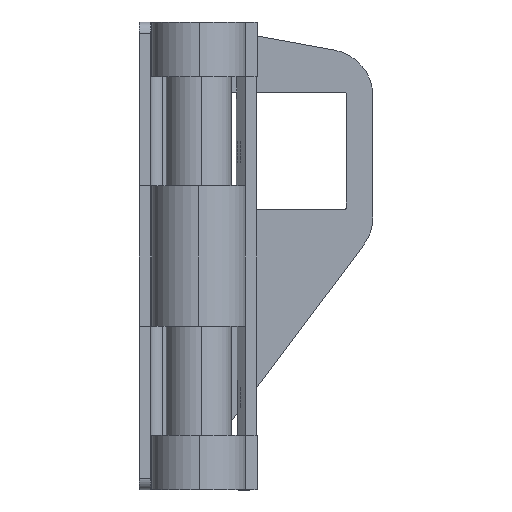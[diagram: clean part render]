
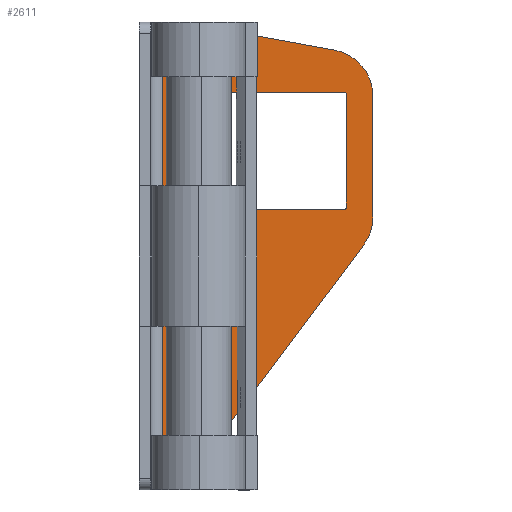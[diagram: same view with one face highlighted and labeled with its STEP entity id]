
A CAD part, left-side view. The second image highlights one B-rep face of the part: STEP entity #2611.
In plain terms, the highlighted planar face has unit normal (-1, 0, 0).
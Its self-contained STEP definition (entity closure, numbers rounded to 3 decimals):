
#19 = CARTESIAN_POINT ( 'NONE',  ( 305., -63., 69.5 ) ) ;
#43 = EDGE_CURVE ( 'NONE', #1361, #2282, #2624, .T. ) ;
#84 = LINE ( 'NONE', #19, #1025 ) ;
#113 = CARTESIAN_POINT ( 'NONE',  ( 305., -70.5, 4.667 ) ) ;
#115 = LINE ( 'NONE', #770, #2777 ) ;
#150 = EDGE_CURVE ( 'NONE', #3568, #1786, #716, .T. ) ;
#155 = ORIENTED_EDGE ( 'NONE', *, *, #3084, .F. ) ;
#240 = CARTESIAN_POINT ( 'NONE',  ( 305., -63., 20.5 ) ) ;
#253 = ORIENTED_EDGE ( 'NONE', *, *, #1641, .F. ) ;
#274 = CIRCLE ( 'NONE', #1566, 0.5 ) ;
#302 = EDGE_LOOP ( 'NONE', ( #1205, #2645, #155, #1984, #2272, #2967, #1259, #1002 ) ) ;
#323 = DIRECTION ( 'NONE',  ( 0., 1., 0. ) ) ;
#324 = DIRECTION ( 'NONE',  ( -1., 0., 0. ) ) ;
#326 = CARTESIAN_POINT ( 'NONE',  ( 305., -62.5, 69.5 ) ) ;
#328 = VERTEX_POINT ( 'NONE', #2846 ) ;
#337 = ORIENTED_EDGE ( 'NONE', *, *, #4019, .T. ) ;
#396 = LINE ( 'NONE', #899, #3893 ) ;
#456 = DIRECTION ( 'NONE',  ( 0., 1., 0. ) ) ;
#457 = DIRECTION ( 'NONE',  ( -1., 0., 0. ) ) ;
#463 = CARTESIAN_POINT ( 'NONE',  ( 305., 11.5, 20.5 ) ) ;
#513 = EDGE_CURVE ( 'NONE', #2811, #1565, #2601, .T. ) ;
#540 = AXIS2_PLACEMENT_3D ( 'NONE', #3517, #3516, #3514 ) ;
#606 = CARTESIAN_POINT ( 'NONE',  ( 305., 20.5, 100. ) ) ;
#664 = LINE ( 'NONE', #606, #4042 ) ;
#683 = CARTESIAN_POINT ( 'NONE',  ( 305., 8., -100. ) ) ;
#700 = EDGE_CURVE ( 'NONE', #1565, #1891, #2973, .T. ) ;
#716 = CIRCLE ( 'NONE', #2866, 0.5 ) ;
#741 = VECTOR ( 'NONE', #977, 1000. ) ;
#770 = CARTESIAN_POINT ( 'NONE',  ( 305., 15.5, 100. ) ) ;
#776 = DIRECTION ( 'NONE',  ( 0., 0., -1. ) ) ;
#873 = VERTEX_POINT ( 'NONE', #1790 ) ;
#899 = CARTESIAN_POINT ( 'NONE',  ( 305., 8., 100. ) ) ;
#925 = CARTESIAN_POINT ( 'NONE',  ( 305., 11.5, 70. ) ) ;
#930 = CARTESIAN_POINT ( 'NONE',  ( 305., 12., 20.5 ) ) ;
#937 = VERTEX_POINT ( 'NONE', #1701 ) ;
#953 = CARTESIAN_POINT ( 'NONE',  ( 305., 8., 100. ) ) ;
#968 = DIRECTION ( 'NONE',  ( 0., 0.984, 0.179 ) ) ;
#973 = CARTESIAN_POINT ( 'NONE',  ( 305., 11.5, 20. ) ) ;
#977 = DIRECTION ( 'NONE',  ( 0., 1., 0. ) ) ;
#1002 = ORIENTED_EDGE ( 'NONE', *, *, #700, .T. ) ;
#1025 = VECTOR ( 'NONE', #1349, 1000. ) ;
#1075 = CARTESIAN_POINT ( 'NONE',  ( 305., -74.5, 16.667 ) ) ;
#1146 = VECTOR ( 'NONE', #2141, 1000. ) ;
#1205 = ORIENTED_EDGE ( 'NONE', *, *, #3772, .F. ) ;
#1223 = CARTESIAN_POINT ( 'NONE',  ( 305., -63., 69.5 ) ) ;
#1259 = ORIENTED_EDGE ( 'NONE', *, *, #513, .T. ) ;
#1335 = VERTEX_POINT ( 'NONE', #953 ) ;
#1344 = CIRCLE ( 'NONE', #3551, 20. ) ;
#1349 = DIRECTION ( 'NONE',  ( 0., 0., -1. ) ) ;
#1361 = VERTEX_POINT ( 'NONE', #925 ) ;
#1390 = EDGE_CURVE ( 'NONE', #2545, #1335, #396, .T. ) ;
#1457 = ORIENTED_EDGE ( 'NONE', *, *, #1709, .F. ) ;
#1460 = ORIENTED_EDGE ( 'NONE', *, *, #3316, .T. ) ;
#1510 = EDGE_CURVE ( 'NONE', #873, #2811, #115, .T. ) ;
#1550 = VECTOR ( 'NONE', #2625, 1000. ) ;
#1565 = VERTEX_POINT ( 'NONE', #683 ) ;
#1566 = AXIS2_PLACEMENT_3D ( 'NONE', #463, #457, #456 ) ;
#1586 = ORIENTED_EDGE ( 'NONE', *, *, #150, .F. ) ;
#1594 = FACE_OUTER_BOUND ( 'NONE', #302, .T. ) ;
#1595 = DIRECTION ( 'NONE',  ( 0., -1., 0. ) ) ;
#1598 = DIRECTION ( 'NONE',  ( 1., 0., 0. ) ) ;
#1599 = CARTESIAN_POINT ( 'NONE',  ( 305., -54.5, 16.667 ) ) ;
#1641 = EDGE_CURVE ( 'NONE', #4056, #3474, #274, .T. ) ;
#1701 = CARTESIAN_POINT ( 'NONE',  ( 305., -74.5, 68.308 ) ) ;
#1709 = EDGE_CURVE ( 'NONE', #3940, #328, #1908, .T. ) ;
#1786 = VERTEX_POINT ( 'NONE', #240 ) ;
#1790 = CARTESIAN_POINT ( 'NONE',  ( 305., 15.5, 100. ) ) ;
#1891 = VERTEX_POINT ( 'NONE', #113 ) ;
#1908 = CIRCLE ( 'NONE', #3363, 0.5 ) ;
#1950 = CARTESIAN_POINT ( 'NONE',  ( 305., -62.5, 20. ) ) ;
#1974 = EDGE_CURVE ( 'NONE', #3940, #1786, #84, .T. ) ;
#1984 = ORIENTED_EDGE ( 'NONE', *, *, #1390, .T. ) ;
#2066 = CARTESIAN_POINT ( 'NONE',  ( 305., 11.5, 20. ) ) ;
#2125 = EDGE_CURVE ( 'NONE', #873, #1335, #664, .T. ) ;
#2141 = DIRECTION ( 'NONE',  ( 0., 0., -1. ) ) ;
#2160 = DIRECTION ( 'NONE',  ( 0., -0.6, 0.8 ) ) ;
#2165 = CARTESIAN_POINT ( 'NONE',  ( 305., 8., -100. ) ) ;
#2167 = CARTESIAN_POINT ( 'NONE',  ( 305., -74.5, 100. ) ) ;
#2272 = ORIENTED_EDGE ( 'NONE', *, *, #2125, .F. ) ;
#2282 = VERTEX_POINT ( 'NONE', #3845 ) ;
#2332 = CARTESIAN_POINT ( 'NONE',  ( 305., 11.5, 70. ) ) ;
#2341 = DIRECTION ( 'NONE',  ( 0., -1., 0. ) ) ;
#2365 = LINE ( 'NONE', #2629, #1550 ) ;
#2439 = ORIENTED_EDGE ( 'NONE', *, *, #43, .F. ) ;
#2454 = CARTESIAN_POINT ( 'NONE',  ( 305., 15.5, -100. ) ) ;
#2456 = DIRECTION ( 'NONE',  ( 0., -1., 0. ) ) ;
#2545 = VERTEX_POINT ( 'NONE', #3574 ) ;
#2601 = LINE ( 'NONE', #2454, #3255 ) ;
#2611 = ADVANCED_FACE ( 'NONE', ( #1594, #3555 ), #3456, .F. ) ;
#2624 = CIRCLE ( 'NONE', #540, 0.5 ) ;
#2625 = DIRECTION ( 'NONE',  ( 0., 0., 1. ) ) ;
#2629 = CARTESIAN_POINT ( 'NONE',  ( 305., 12., 69.5 ) ) ;
#2645 = ORIENTED_EDGE ( 'NONE', *, *, #3411, .F. ) ;
#2689 = DIRECTION ( 'NONE',  ( 0., -1., 0. ) ) ;
#2692 = DIRECTION ( 'NONE',  ( 1., 0., 0. ) ) ;
#2698 = CARTESIAN_POINT ( 'NONE',  ( 305., -54.5, 68.308 ) ) ;
#2777 = VECTOR ( 'NONE', #776, 1000. ) ;
#2796 = AXIS2_PLACEMENT_3D ( 'NONE', #1599, #1598, #1595 ) ;
#2805 = CIRCLE ( 'NONE', #2796, 20. ) ;
#2811 = VERTEX_POINT ( 'NONE', #3148 ) ;
#2846 = CARTESIAN_POINT ( 'NONE',  ( 305., -62.5, 70. ) ) ;
#2851 = LINE ( 'NONE', #2167, #1146 ) ;
#2864 = ORIENTED_EDGE ( 'NONE', *, *, #1974, .T. ) ;
#2866 = AXIS2_PLACEMENT_3D ( 'NONE', #3256, #3254, #3251 ) ;
#2871 = VECTOR ( 'NONE', #2160, 1000. ) ;
#2967 = ORIENTED_EDGE ( 'NONE', *, *, #1510, .T. ) ;
#2973 = LINE ( 'NONE', #2165, #2871 ) ;
#3084 = EDGE_CURVE ( 'NONE', #2545, #937, #1344, .T. ) ;
#3099 = EDGE_LOOP ( 'NONE', ( #253, #3294, #2439, #1460, #1457, #2864, #1586, #337 ) ) ;
#3145 = EDGE_CURVE ( 'NONE', #4056, #2282, #2365, .T. ) ;
#3148 = CARTESIAN_POINT ( 'NONE',  ( 305., 15.5, -100. ) ) ;
#3235 = LINE ( 'NONE', #2332, #4012 ) ;
#3251 = DIRECTION ( 'NONE',  ( 0., 1., 0. ) ) ;
#3254 = DIRECTION ( 'NONE',  ( -1., 0., 0. ) ) ;
#3255 = VECTOR ( 'NONE', #2456, 1000. ) ;
#3256 = CARTESIAN_POINT ( 'NONE',  ( 305., -62.5, 20.5 ) ) ;
#3294 = ORIENTED_EDGE ( 'NONE', *, *, #3145, .T. ) ;
#3316 = EDGE_CURVE ( 'NONE', #1361, #328, #3235, .T. ) ;
#3349 = LINE ( 'NONE', #973, #741 ) ;
#3363 = AXIS2_PLACEMENT_3D ( 'NONE', #326, #324, #323 ) ;
#3411 = EDGE_CURVE ( 'NONE', #937, #3993, #2851, .T. ) ;
#3452 = DIRECTION ( 'NONE',  ( 0., 1., 0. ) ) ;
#3453 = DIRECTION ( 'NONE',  ( 1., 0., 0. ) ) ;
#3456 = PLANE ( 'NONE',  #3919 ) ;
#3458 = CARTESIAN_POINT ( 'NONE',  ( 305., 25.5, 100. ) ) ;
#3474 = VERTEX_POINT ( 'NONE', #2066 ) ;
#3514 = DIRECTION ( 'NONE',  ( 0., 1., 0. ) ) ;
#3516 = DIRECTION ( 'NONE',  ( -1., 0., 0. ) ) ;
#3517 = CARTESIAN_POINT ( 'NONE',  ( 305., 11.5, 69.5 ) ) ;
#3551 = AXIS2_PLACEMENT_3D ( 'NONE', #2698, #2692, #2689 ) ;
#3555 = FACE_BOUND ( 'NONE', #3099, .T. ) ;
#3568 = VERTEX_POINT ( 'NONE', #1950 ) ;
#3574 = CARTESIAN_POINT ( 'NONE',  ( 305., -58.078, 87.986 ) ) ;
#3643 = DIRECTION ( 'NONE',  ( 0., -1., 0. ) ) ;
#3772 = EDGE_CURVE ( 'NONE', #3993, #1891, #2805, .T. ) ;
#3845 = CARTESIAN_POINT ( 'NONE',  ( 305., 12., 69.5 ) ) ;
#3893 = VECTOR ( 'NONE', #968, 1000. ) ;
#3919 = AXIS2_PLACEMENT_3D ( 'NONE', #3458, #3453, #3452 ) ;
#3940 = VERTEX_POINT ( 'NONE', #1223 ) ;
#3993 = VERTEX_POINT ( 'NONE', #1075 ) ;
#4012 = VECTOR ( 'NONE', #2341, 1000. ) ;
#4019 = EDGE_CURVE ( 'NONE', #3568, #3474, #3349, .T. ) ;
#4042 = VECTOR ( 'NONE', #3643, 1000. ) ;
#4056 = VERTEX_POINT ( 'NONE', #930 ) ;
